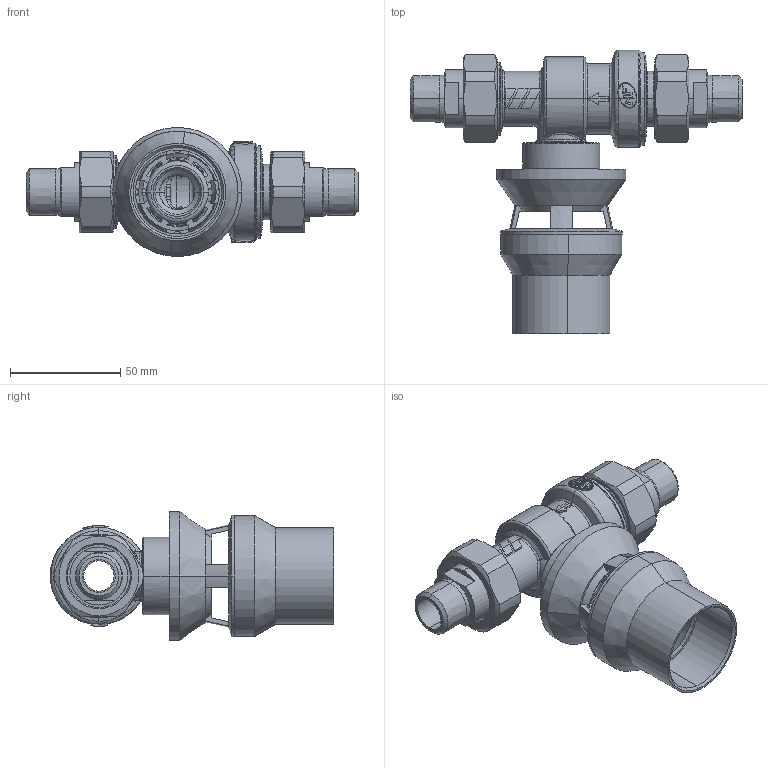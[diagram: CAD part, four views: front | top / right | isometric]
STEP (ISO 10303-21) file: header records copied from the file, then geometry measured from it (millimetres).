
FILE_DESCRIPTION (( 'STEP AP214' ), '1' );
FILE_NAME ('2230125.STEP', '2017-12-14T08:59:47', ( '' ), ( '' ), 'SwSTEP 2.0', 'SolidWorks 2017', '' );
FILE_SCHEMA (( 'AUTOMOTIVE_DESIGN' ));
Length unit declared in the file: millimetre
Products named in the file (10): 22016427; 22016522; 22016626; 22018873; 22018873-2; 22018873-1; 22016625; 22014801; 22090197_22010334; 2230125
Assembly tree (12 placements, depth 3):
  2230125
    22090197_22010334
    22014801  x2
    22016625  x2
    22018873
      22018873-1
      22018873-2
    22016626
    22016522
    22016427  x2
Bounding box: 150.3 x 128.3 x 58.5 mm (x, y, z)
Volume: 96841.1 mm3; surface area: 77742.3 mm2
Topology: 11 solids, 11 shells, 740 faces, 1807 edges, 1098 vertices
Faces by surface type: cylinder 227, plane 214, cone 138, torus 93, bspline 64, sphere 4
Entity records: 23548 total; most frequent: CARTESIAN_POINT 7294, DIRECTION 3357, ORIENTED_EDGE 3342, EDGE_CURVE 1671, AXIS2_PLACEMENT_3D 1388, VERTEX_POINT 1016, CIRCLE 750, EDGE_LOOP 727
